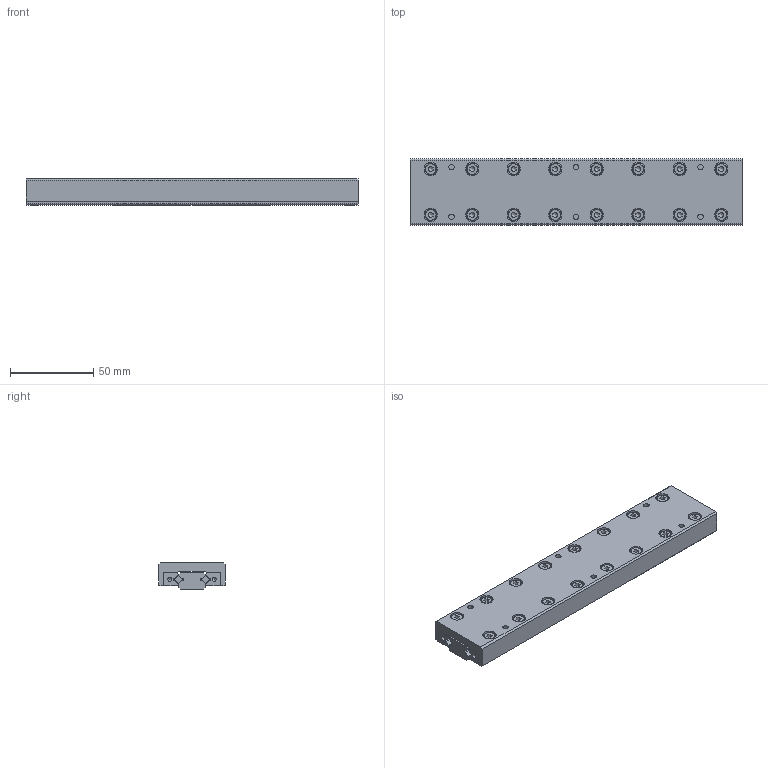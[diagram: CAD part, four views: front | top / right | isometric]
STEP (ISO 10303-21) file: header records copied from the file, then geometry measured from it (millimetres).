
FILE_DESCRIPTION((''),'2;1');
FILE_NAME('D:\製品 (図面)\カタログ用3D\リニアガイド関連\STEP形式\CRT3\CRT3200.stp','2010-07-29T15:50:53',('Tsuchiya'),(''),'Autodesk Inventor 10','Autodesk Inventor 10','');
FILE_SCHEMA(('AUTOMOTIVE_DESIGN { 1 0 10303 214 1 1 1 1 }'));
Length unit declared in the file: millimetre
Products named in the file (5): CRT3200; CRT32001; CRT32002; CRT32003; CRT32004
Assembly tree (4 placements, depth 2):
  CRT3200
    CRT32001
    CRT32002
    CRT32003
    CRT32004
Bounding box: 200 x 40 x 16 mm (x, y, z)
Volume: 106423.8 mm3; surface area: 50416.6 mm2
Topology: 4 solids, 20 shells, 497 faces, 1110 edges, 732 vertices
Faces by surface type: plane 288, bspline 105, cylinder 54, cone 50
Full cylindrical faces by diameter (mm): 2.459 x2, 4 x32, 7 x16
Entity records: 13322 total; most frequent: CARTESIAN_POINT 3519, DIRECTION 1860, ORIENTED_EDGE 1764, EDGE_CURVE 882, EDGE_LOOP 790, AXIS2_PLACEMENT_3D 673, VERTEX_POINT 672, VECTOR 514
